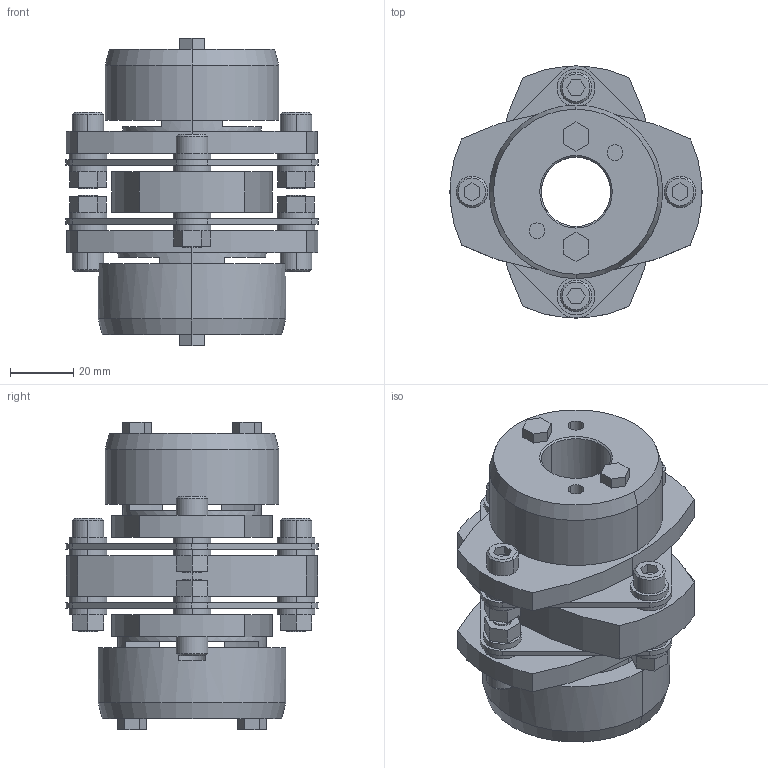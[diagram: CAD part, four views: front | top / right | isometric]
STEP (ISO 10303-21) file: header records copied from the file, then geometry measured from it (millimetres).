
FILE_DESCRIPTION((''),'2;1');
FILE_NAME('LCD-80T7-22×24.stp','2011-09-15T14:18:17',(''),(''),'AutoCAD STEP 2000i','AutoCAD 2000i',', , ');
FILE_SCHEMA(('CONFIG_CONTROL_DESIGN'));
Length unit declared in the file: millimetre
Products named in the file (10): LCD-80T7-22×24; 忣兜1; LC80T7-T024; LC80T7-T022-1; LC80T7-T022; LC80T7-T019-1; LC80T7-T019; LC80T7-T017-1; LC80T7-T017; LCD80-ITA
Assembly tree (9 placements, depth 2):
  LCD-80T7-22×24
    忣兜1
    LC80T7-T024
    LC80T7-T022-1
    LC80T7-T022
    LC80T7-T019-1
    LC80T7-T019
    LC80T7-T017-1
    LC80T7-T017
    LCD80-ITA
Bounding box: 80 x 79.95 x 97.5 mm (x, y, z)
Volume: 193621.4 mm3; surface area: 58830.1 mm2
Topology: 1 solids, 1 shells, 310 faces, 756 edges, 496 vertices
Faces by surface type: plane 164, cylinder 122, cone 24
Entity records: 9429 total; most frequent: DIRECTION 1684, CARTESIAN_POINT 1572, ORIENTED_EDGE 1512, EDGE_CURVE 756, AXIS2_PLACEMENT_3D 608, VERTEX_POINT 496, VECTOR 468, LINE 468
